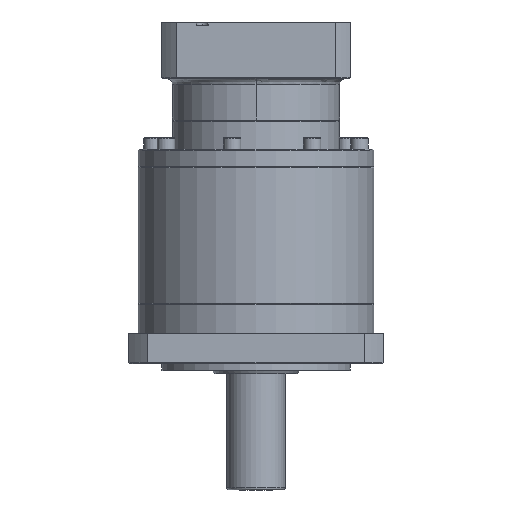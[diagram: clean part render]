
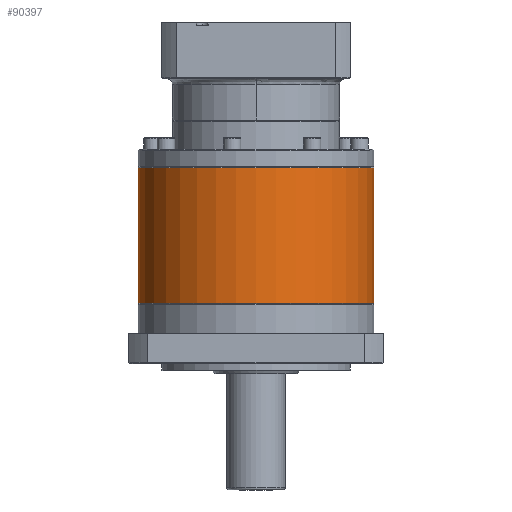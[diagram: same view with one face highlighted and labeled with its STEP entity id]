
A CAD part, left-side view. The second image highlights one B-rep face of the part: STEP entity #90397.
In plain terms, the highlighted cylindrical face has radius 81 mm (diameter 162 mm), a partial arc.
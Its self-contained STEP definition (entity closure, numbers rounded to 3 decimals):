
#128 = VERTEX_POINT ( 'NONE', #63861 ) ;
#200 = DIRECTION ( 'NONE',  ( 0., 1., 0. ) ) ;
#698 = EDGE_LOOP ( 'NONE', ( #89501, #37974, #94714, #65018 ) ) ;
#7429 = CYLINDRICAL_SURFACE ( 'NONE', #69351, 81. ) ;
#7823 = EDGE_CURVE ( 'NONE', #128, #52427, #108526, .T. ) ;
#12179 = LINE ( 'NONE', #25394, #88256 ) ;
#12858 = AXIS2_PLACEMENT_3D ( 'NONE', #79355, #45481, #71486 ) ;
#17087 = CARTESIAN_POINT ( 'NONE',  ( -132.241, 122.681, -94.972 ) ) ;
#17328 = EDGE_CURVE ( 'NONE', #128, #59519, #12179, .T. ) ;
#25394 = CARTESIAN_POINT ( 'NONE',  ( -132.241, -39.319, -94.472 ) ) ;
#28382 = VECTOR ( 'NONE', #77489, 1000. ) ;
#30075 = CARTESIAN_POINT ( 'NONE',  ( -132.241, 41.681, -94.472 ) ) ;
#32709 = AXIS2_PLACEMENT_3D ( 'NONE', #67833, #42518, #77110 ) ;
#36885 = FACE_OUTER_BOUND ( 'NONE', #698, .T. ) ;
#37974 = ORIENTED_EDGE ( 'NONE', *, *, #7823, .T. ) ;
#41776 = CARTESIAN_POINT ( 'NONE',  ( -132.241, 122.681, -188.472 ) ) ;
#42518 = DIRECTION ( 'NONE',  ( 0., 0., 1. ) ) ;
#45481 = DIRECTION ( 'NONE',  ( 0., 0., -1. ) ) ;
#51821 = CARTESIAN_POINT ( 'NONE',  ( -132.241, 122.681, -94.472 ) ) ;
#52427 = VERTEX_POINT ( 'NONE', #17087 ) ;
#54379 = EDGE_CURVE ( 'NONE', #52427, #110448, #72097, .T. ) ;
#59519 = VERTEX_POINT ( 'NONE', #110310 ) ;
#59867 = DIRECTION ( 'NONE',  ( 0., 0., -1. ) ) ;
#63861 = CARTESIAN_POINT ( 'NONE',  ( -132.241, -39.319, -94.972 ) ) ;
#65018 = ORIENTED_EDGE ( 'NONE', *, *, #65785, .T. ) ;
#65785 = EDGE_CURVE ( 'NONE', #110448, #59519, #108499, .T. ) ;
#67833 = CARTESIAN_POINT ( 'NONE',  ( -132.241, 41.681, -188.472 ) ) ;
#69351 = AXIS2_PLACEMENT_3D ( 'NONE', #30075, #59867, #200 ) ;
#71486 = DIRECTION ( 'NONE',  ( 0., 1., 0. ) ) ;
#72097 = LINE ( 'NONE', #51821, #28382 ) ;
#77110 = DIRECTION ( 'NONE',  ( 0., 1., 0. ) ) ;
#77489 = DIRECTION ( 'NONE',  ( 0., 0., -1. ) ) ;
#79355 = CARTESIAN_POINT ( 'NONE',  ( -132.241, 41.681, -94.972 ) ) ;
#84931 = DIRECTION ( 'NONE',  ( 0., 0., -1. ) ) ;
#88256 = VECTOR ( 'NONE', #84931, 1000. ) ;
#89501 = ORIENTED_EDGE ( 'NONE', *, *, #17328, .F. ) ;
#90397 = ADVANCED_FACE ( 'NONE', ( #36885 ), #7429, .T. ) ;
#94714 = ORIENTED_EDGE ( 'NONE', *, *, #54379, .T. ) ;
#108499 = CIRCLE ( 'NONE', #32709, 81. ) ;
#108526 = CIRCLE ( 'NONE', #12858, 81. ) ;
#110310 = CARTESIAN_POINT ( 'NONE',  ( -132.241, -39.319, -188.472 ) ) ;
#110448 = VERTEX_POINT ( 'NONE', #41776 ) ;
